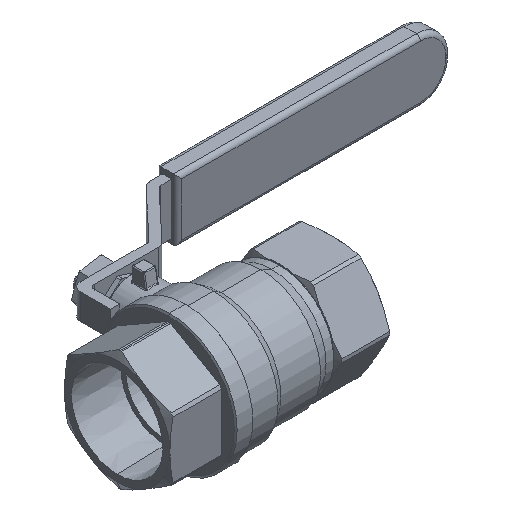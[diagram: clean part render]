
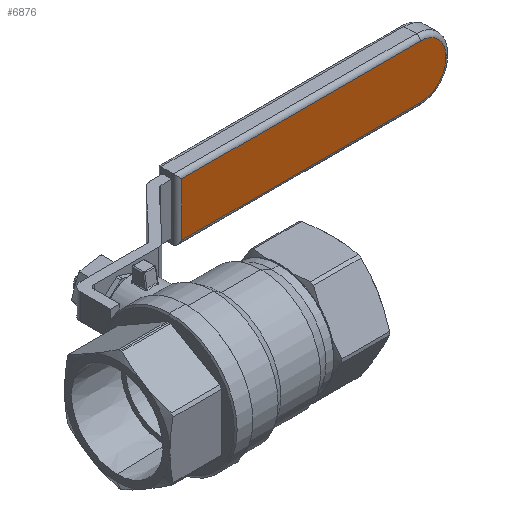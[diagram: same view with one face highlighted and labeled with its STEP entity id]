
A CAD part, isometric view. The second image highlights one B-rep face of the part: STEP entity #6876.
In plain terms, the highlighted planar face has unit normal (0, -1, 0).
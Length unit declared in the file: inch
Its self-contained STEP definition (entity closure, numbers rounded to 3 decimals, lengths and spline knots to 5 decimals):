
#260 = VERTEX_POINT ( 'NONE', #13128 ) ;
#277 = CARTESIAN_POINT ( 'NONE',  ( 1.24104, 1.735, 0.305 ) ) ;
#475 = VERTEX_POINT ( 'NONE', #14587 ) ;
#870 = ORIENTED_EDGE ( 'NONE', *, *, #12067, .T. ) ;
#1229 = DIRECTION ( 'NONE',  ( 0., 0., 1. ) ) ;
#1538 = FACE_OUTER_BOUND ( 'NONE', #6752, .T. ) ;
#1832 = EDGE_CURVE ( 'NONE', #475, #2576, #4730, .T. ) ;
#2481 = DIRECTION ( 'NONE',  ( 0., 0., -1. ) ) ;
#2576 = VERTEX_POINT ( 'NONE', #7955 ) ;
#2862 = EDGE_CURVE ( 'NONE', #14141, #9012, #16369, .T. ) ;
#3179 = ORIENTED_EDGE ( 'NONE', *, *, #11369, .T. ) ;
#3872 = CARTESIAN_POINT ( 'NONE',  ( 3.97967, 1.735, -0.305 ) ) ;
#4110 = DIRECTION ( 'NONE',  ( 1., 0., 0. ) ) ;
#4174 = DIRECTION ( 'NONE',  ( 0., 0., 1. ) ) ;
#4178 = CARTESIAN_POINT ( 'NONE',  ( 4.26967, 1.735, 0.015 ) ) ;
#4730 = LINE ( 'NONE', #4178, #11707 ) ;
#5919 = LINE ( 'NONE', #3872, #16293 ) ;
#6633 = CARTESIAN_POINT ( 'NONE',  ( 3.97967, 1.735, -0.015 ) ) ;
#6752 = EDGE_LOOP ( 'NONE', ( #16852, #870, #7838, #3179, #13643, #13445 ) ) ;
#6876 = ADVANCED_FACE ( 'NONE', ( #1538 ), #13360, .F. ) ;
#7763 = EDGE_CURVE ( 'NONE', #14030, #260, #5919, .T. ) ;
#7838 = ORIENTED_EDGE ( 'NONE', *, *, #7763, .T. ) ;
#7955 = CARTESIAN_POINT ( 'NONE',  ( 4.26967, 1.735, 0.015 ) ) ;
#8057 = DIRECTION ( 'NONE',  ( 0., 0., 1. ) ) ;
#8063 = AXIS2_PLACEMENT_3D ( 'NONE', #16492, #13331, #13321 ) ;
#8894 = CIRCLE ( 'NONE', #13265, 0.29 ) ;
#9012 = VERTEX_POINT ( 'NONE', #277 ) ;
#9279 = VECTOR ( 'NONE', #15762, 39.37008 ) ;
#9368 = DIRECTION ( 'NONE',  ( 0., -1., 0. ) ) ;
#10171 = CIRCLE ( 'NONE', #12989, 0.29 ) ;
#11369 = EDGE_CURVE ( 'NONE', #260, #475, #8894, .T. ) ;
#11509 = LINE ( 'NONE', #15980, #14651 ) ;
#11707 = VECTOR ( 'NONE', #4174, 39.37008 ) ;
#12067 = EDGE_CURVE ( 'NONE', #9012, #14030, #11509, .T. ) ;
#12989 = AXIS2_PLACEMENT_3D ( 'NONE', #17284, #9368, #1229 ) ;
#13128 = CARTESIAN_POINT ( 'NONE',  ( 3.97967, 1.735, -0.305 ) ) ;
#13265 = AXIS2_PLACEMENT_3D ( 'NONE', #6633, #16130, #8057 ) ;
#13321 = DIRECTION ( 'NONE',  ( 0., 0., 1. ) ) ;
#13331 = DIRECTION ( 'NONE',  ( 0., 1., 0. ) ) ;
#13360 = PLANE ( 'NONE',  #8063 ) ;
#13445 = ORIENTED_EDGE ( 'NONE', *, *, #14166, .T. ) ;
#13643 = ORIENTED_EDGE ( 'NONE', *, *, #1832, .T. ) ;
#14030 = VERTEX_POINT ( 'NONE', #14556 ) ;
#14141 = VERTEX_POINT ( 'NONE', #15992 ) ;
#14166 = EDGE_CURVE ( 'NONE', #2576, #14141, #10171, .T. ) ;
#14556 = CARTESIAN_POINT ( 'NONE',  ( 1.24104, 1.735, -0.305 ) ) ;
#14587 = CARTESIAN_POINT ( 'NONE',  ( 4.26967, 1.735, -0.015 ) ) ;
#14651 = VECTOR ( 'NONE', #2481, 39.37008 ) ;
#15762 = DIRECTION ( 'NONE',  ( -1., 0., 0. ) ) ;
#15804 = CARTESIAN_POINT ( 'NONE',  ( 1.19104, 1.735, 0.305 ) ) ;
#15980 = CARTESIAN_POINT ( 'NONE',  ( 1.24104, 1.735, -0.355 ) ) ;
#15992 = CARTESIAN_POINT ( 'NONE',  ( 3.97967, 1.735, 0.305 ) ) ;
#16130 = DIRECTION ( 'NONE',  ( 0., -1., 0. ) ) ;
#16293 = VECTOR ( 'NONE', #4110, 39.37008 ) ;
#16369 = LINE ( 'NONE', #15804, #9279 ) ;
#16492 = CARTESIAN_POINT ( 'NONE',  ( 3.97967, 1.735, -0.015 ) ) ;
#16852 = ORIENTED_EDGE ( 'NONE', *, *, #2862, .T. ) ;
#17284 = CARTESIAN_POINT ( 'NONE',  ( 3.97967, 1.735, 0.015 ) ) ;
